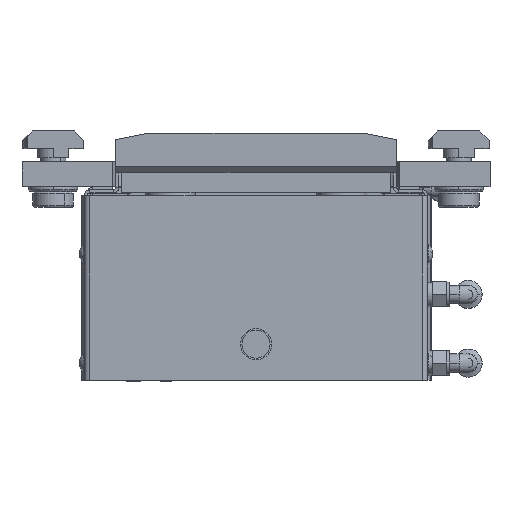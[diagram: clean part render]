
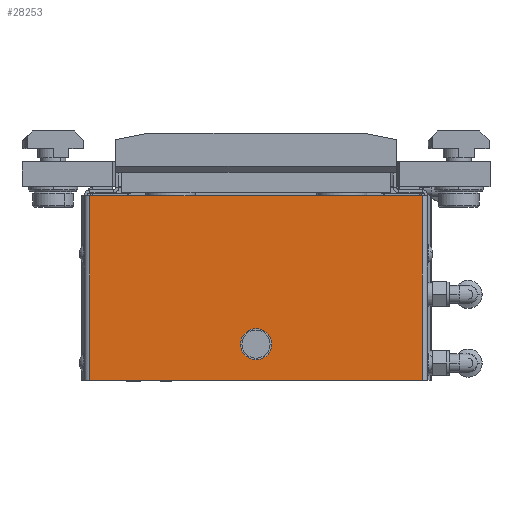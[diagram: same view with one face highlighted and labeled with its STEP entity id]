
A CAD part, top view. The second image highlights one B-rep face of the part: STEP entity #28253.
In plain terms, the highlighted planar face has unit normal (0, 0, 1).
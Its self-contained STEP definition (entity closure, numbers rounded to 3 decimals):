
#307 = EDGE_CURVE ( 'NONE', #16000, #18283, #27488, .T. ) ;
#1300 = CARTESIAN_POINT ( 'NONE',  ( 45.025, -14.543, 157.6 ) ) ;
#1961 = ORIENTED_EDGE ( 'NONE', *, *, #12384, .F. ) ;
#2088 = EDGE_CURVE ( 'NONE', #3152, #25626, #23804, .T. ) ;
#3152 = VERTEX_POINT ( 'NONE', #10354 ) ;
#3349 = CARTESIAN_POINT ( 'NONE',  ( 45.025, -1., 157.6 ) ) ;
#3508 = DIRECTION ( 'NONE',  ( 0., 0., 1. ) ) ;
#4349 = DIRECTION ( 'NONE',  ( 1., 0., 0. ) ) ;
#4627 = CARTESIAN_POINT ( 'NONE',  ( 45.025, -14.543, 157.6 ) ) ;
#4945 = AXIS2_PLACEMENT_3D ( 'NONE', #4627, #24644, #4349 ) ;
#5040 = CIRCLE ( 'NONE', #20097, 5. ) ;
#5543 = FACE_OUTER_BOUND ( 'NONE', #21853, .T. ) ;
#6928 = VERTEX_POINT ( 'NONE', #11879 ) ;
#7674 = VECTOR ( 'NONE', #12844, 1000. ) ;
#7709 = EDGE_CURVE ( 'NONE', #6928, #16732, #8440, .T. ) ;
#8440 = LINE ( 'NONE', #17454, #21705 ) ;
#8964 = CARTESIAN_POINT ( 'NONE',  ( 50.025, -14.543, 157.6 ) ) ;
#10002 = EDGE_LOOP ( 'NONE', ( #1961, #17091 ) ) ;
#10354 = CARTESIAN_POINT ( 'NONE',  ( -8.238, 33., 157.6 ) ) ;
#11383 = DIRECTION ( 'NONE',  ( 0., -1., 0. ) ) ;
#11879 = CARTESIAN_POINT ( 'NONE',  ( 98.288, -26.043, 157.6 ) ) ;
#12304 = PLANE ( 'NONE',  #16096 ) ;
#12384 = EDGE_CURVE ( 'NONE', #18283, #16000, #5040, .T. ) ;
#12844 = DIRECTION ( 'NONE',  ( 1., 0., 0. ) ) ;
#13013 = DIRECTION ( 'NONE',  ( 0., 1., 0. ) ) ;
#13123 = LINE ( 'NONE', #22115, #7674 ) ;
#13316 = DIRECTION ( 'NONE',  ( 1., 0., 0. ) ) ;
#13718 = ORIENTED_EDGE ( 'NONE', *, *, #7709, .T. ) ;
#13973 = CARTESIAN_POINT ( 'NONE',  ( -8.238, 34., 157.6 ) ) ;
#16000 = VERTEX_POINT ( 'NONE', #18055 ) ;
#16096 = AXIS2_PLACEMENT_3D ( 'NONE', #3349, #28481, #23645 ) ;
#16732 = VERTEX_POINT ( 'NONE', #19168 ) ;
#17091 = ORIENTED_EDGE ( 'NONE', *, *, #307, .F. ) ;
#17454 = CARTESIAN_POINT ( 'NONE',  ( 98.288, -35.293, 157.6 ) ) ;
#17744 = CARTESIAN_POINT ( 'NONE',  ( -8.238, -26.043, 157.6 ) ) ;
#18055 = CARTESIAN_POINT ( 'NONE',  ( 40.025, -14.543, 157.6 ) ) ;
#18283 = VERTEX_POINT ( 'NONE', #8964 ) ;
#18473 = VECTOR ( 'NONE', #13316, 1000. ) ;
#19168 = CARTESIAN_POINT ( 'NONE',  ( 98.288, 33., 157.6 ) ) ;
#19376 = EDGE_CURVE ( 'NONE', #25626, #6928, #13123, .T. ) ;
#19695 = ORIENTED_EDGE ( 'NONE', *, *, #28468, .F. ) ;
#20097 = AXIS2_PLACEMENT_3D ( 'NONE', #1300, #3508, #21586 ) ;
#21299 = FACE_BOUND ( 'NONE', #10002, .T. ) ;
#21586 = DIRECTION ( 'NONE',  ( 1., 0., 0. ) ) ;
#21705 = VECTOR ( 'NONE', #13013, 1000. ) ;
#21853 = EDGE_LOOP ( 'NONE', ( #13718, #19695, #26165, #28456 ) ) ;
#22115 = CARTESIAN_POINT ( 'NONE',  ( 45.025, -26.043, 157.6 ) ) ;
#23645 = DIRECTION ( 'NONE',  ( 1., 0., 0. ) ) ;
#23804 = LINE ( 'NONE', #13973, #25757 ) ;
#24066 = CARTESIAN_POINT ( 'NONE',  ( 45.025, 33., 157.6 ) ) ;
#24644 = DIRECTION ( 'NONE',  ( 0., 0., 1. ) ) ;
#25626 = VERTEX_POINT ( 'NONE', #17744 ) ;
#25757 = VECTOR ( 'NONE', #11383, 1000. ) ;
#26165 = ORIENTED_EDGE ( 'NONE', *, *, #2088, .T. ) ;
#26973 = LINE ( 'NONE', #24066, #18473 ) ;
#27488 = CIRCLE ( 'NONE', #4945, 5. ) ;
#28253 = ADVANCED_FACE ( 'NONE', ( #5543, #21299 ), #12304, .T. ) ;
#28456 = ORIENTED_EDGE ( 'NONE', *, *, #19376, .T. ) ;
#28468 = EDGE_CURVE ( 'NONE', #3152, #16732, #26973, .T. ) ;
#28481 = DIRECTION ( 'NONE',  ( 0., 0., 1. ) ) ;
